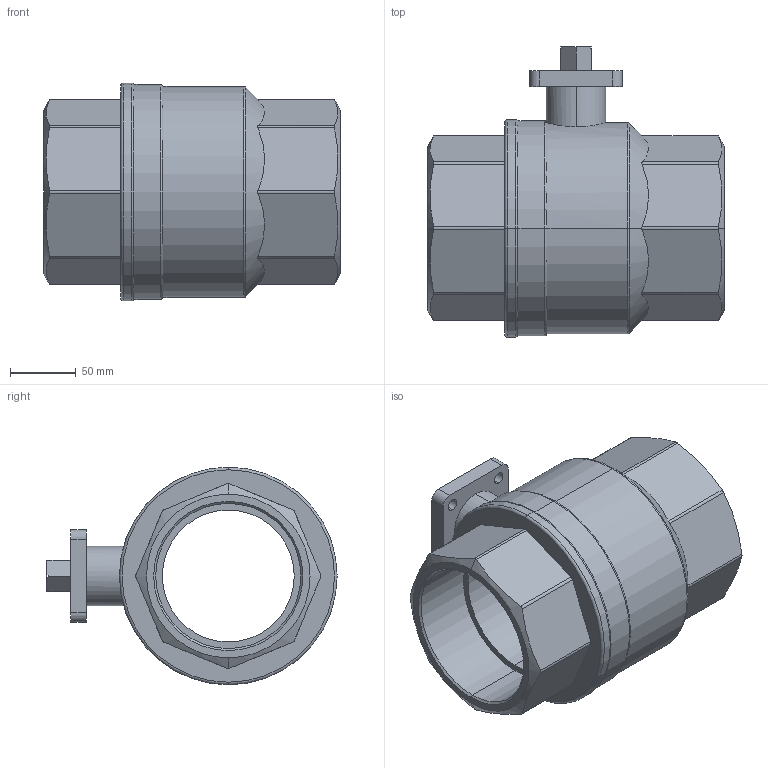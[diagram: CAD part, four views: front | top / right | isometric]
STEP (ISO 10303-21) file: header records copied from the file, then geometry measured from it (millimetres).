
FILE_DESCRIPTION (( 'STEP AP214' ), '1' );
FILE_NAME ('Ballvalve A25-DN100 G4.step', '2010-09-23T08:32:07', ( '' ), ( '' ), 'SwSTEP 2.0', 'SolidWorks 2010', '' );
FILE_SCHEMA (( 'AUTOMOTIVE_DESIGN' ));
Length unit declared in the file: millimetre
Products named in the file (1): Ballvalve A25-DN100 G4
Bounding box: 225 x 220 x 165 mm (x, y, z)
Volume: 1961287.2 mm3; surface area: 214533.1 mm2
Topology: 1 solids, 1 shells, 101 faces, 258 edges, 165 vertices
Faces by surface type: cylinder 46, plane 37, cone 10, torus 8
Entity records: 3718 total; most frequent: CARTESIAN_POINT 1169, ORIENTED_EDGE 516, DIRECTION 488, EDGE_CURVE 258, AXIS2_PLACEMENT_3D 186, VERTEX_POINT 165, EDGE_LOOP 117, LINE 116
